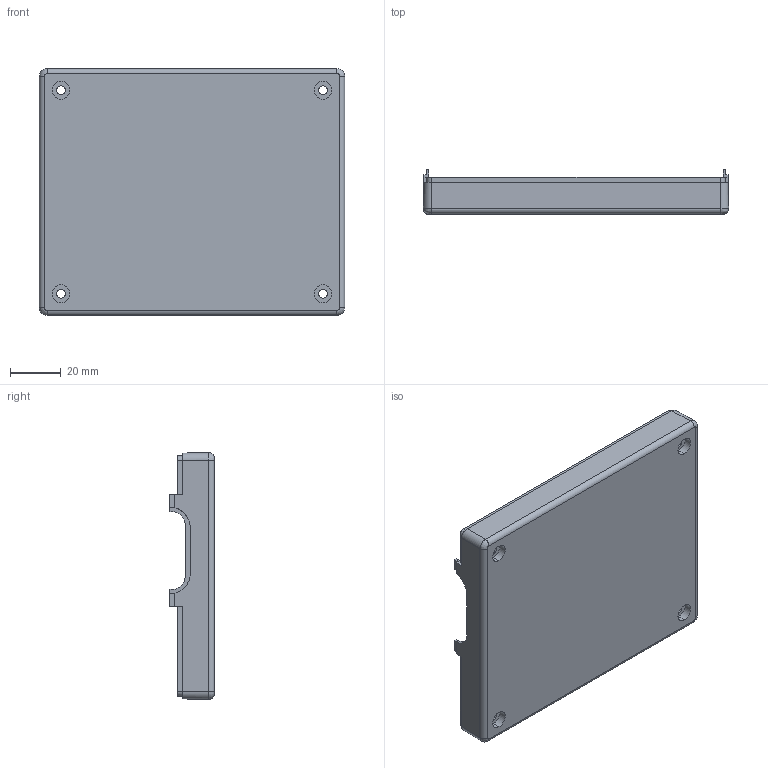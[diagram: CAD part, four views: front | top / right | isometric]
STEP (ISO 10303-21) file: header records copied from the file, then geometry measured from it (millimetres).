
FILE_DESCRIPTION (( 'STEP AP214' ), '1' );
FILE_NAME ('LowerEnclosure_ProtMod_V4.STEP', '2024-10-01T18:52:55', ( '' ), ( '' ), 'SwSTEP 2.0', 'SolidWorks 2024', '' );
FILE_SCHEMA (( 'AUTOMOTIVE_DESIGN' ));
Length unit declared in the file: millimetre
Products named in the file (1): LowerEnclosure_ProtMod_V4
Bounding box: 120 x 17.4 x 97 mm (x, y, z)
Volume: 34330.9 mm3; surface area: 34062.7 mm2
Topology: 1 solids, 1 shells, 140 faces, 360 edges, 228 vertices
Faces by surface type: plane 61, cylinder 41, bspline 20, cone 18
Entity records: 5463 total; most frequent: CARTESIAN_POINT 2119, ORIENTED_EDGE 720, DIRECTION 668, EDGE_CURVE 360, AXIS2_PLACEMENT_3D 233, VERTEX_POINT 228, LINE 202, VECTOR 202
